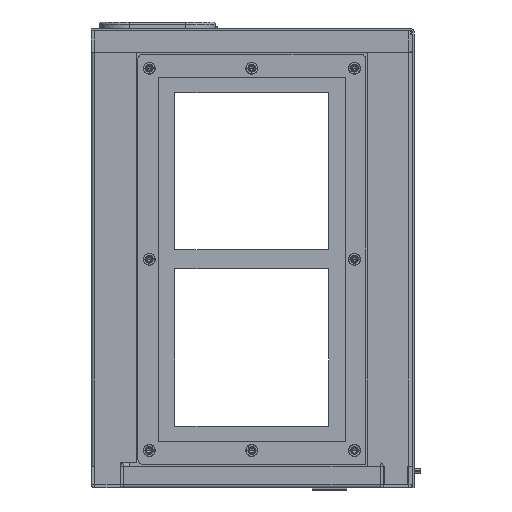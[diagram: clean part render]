
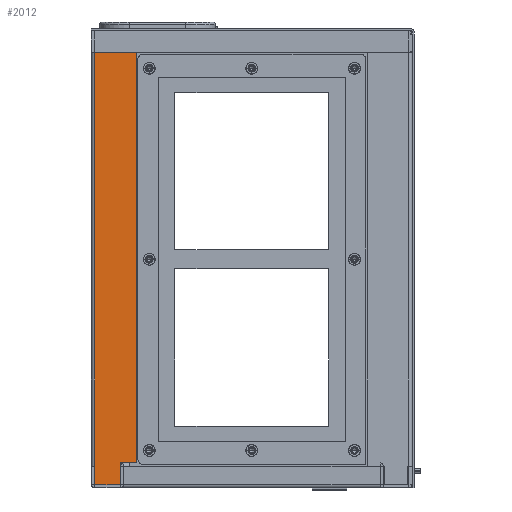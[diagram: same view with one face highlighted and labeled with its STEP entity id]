
A CAD part, left-side view. The second image highlights one B-rep face of the part: STEP entity #2012.
In plain terms, the highlighted planar face has unit normal (-1, 0, 0) as drawn and (0, -1, 0) by its records, which use the part's own axes.
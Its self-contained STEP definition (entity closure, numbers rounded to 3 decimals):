
#1306=DIRECTION('',(0.,0.,1.));
#1307=VECTOR('',#1306,14.5);
#1308=CARTESIAN_POINT('',(2.5,0.,0.));
#1309=LINE('',#1308,#1307);
#1313=DIRECTION('',(-1.,0.,0.));
#1314=VECTOR('',#1313,12.5);
#1315=CARTESIAN_POINT('',(35.,0.,17.));
#1316=LINE('',#1315,#1314);
#1320=DIRECTION('',(0.,0.,1.));
#1321=VECTOR('',#1320,17.);
#1322=CARTESIAN_POINT('',(22.5,0.,0.));
#1323=LINE('',#1322,#1321);
#1334=DIRECTION('',(1.,0.,0.));
#1335=VECTOR('',#1334,20.);
#1336=CARTESIAN_POINT('',(2.5,0.,0.));
#1337=LINE('',#1336,#1335);
#1369=DIRECTION('',(0.,0.,1.));
#1370=VECTOR('',#1369,320.);
#1371=CARTESIAN_POINT('',(35.,0.,17.));
#1372=LINE('',#1371,#1370);
#1390=DIRECTION('',(1.,0.,0.));
#1391=VECTOR('',#1390,32.5);
#1392=CARTESIAN_POINT('',(2.5,0.,337.));
#1393=LINE('',#1392,#1391);
#1441=DIRECTION('',(0.,0.,1.));
#1442=VECTOR('',#1441,322.5);
#1443=CARTESIAN_POINT('',(2.5,0.,14.5));
#1444=LINE('',#1443,#1442);
#1887=CARTESIAN_POINT('',(2.5,0.,337.));
#1888=CARTESIAN_POINT('',(35.,0.,337.));
#1889=VERTEX_POINT('',#1887);
#1890=VERTEX_POINT('',#1888);
#1897=CARTESIAN_POINT('',(35.,0.,17.));
#1898=CARTESIAN_POINT('',(22.5,0.,17.));
#1899=VERTEX_POINT('',#1897);
#1900=VERTEX_POINT('',#1898);
#1901=CARTESIAN_POINT('',(22.5,0.,0.));
#1902=VERTEX_POINT('',#1901);
#1965=CARTESIAN_POINT('',(2.5,0.,0.));
#1966=CARTESIAN_POINT('',(2.5,0.,14.5));
#1967=VERTEX_POINT('',#1965);
#1968=VERTEX_POINT('',#1966);
#1991=CARTESIAN_POINT('',(0.,0.,0.));
#1992=DIRECTION('',(0.,-1.,0.));
#1993=DIRECTION('',(1.,0.,0.));
#1994=AXIS2_PLACEMENT_3D('',#1991,#1992,#1993);
#1995=PLANE('',#1994);
#1997=ORIENTED_EDGE('',*,*,#1996,.T.);
#1999=ORIENTED_EDGE('',*,*,#1998,.T.);
#2001=ORIENTED_EDGE('',*,*,#2000,.T.);
#2003=ORIENTED_EDGE('',*,*,#2002,.F.);
#2005=ORIENTED_EDGE('',*,*,#2004,.T.);
#2007=ORIENTED_EDGE('',*,*,#2006,.F.);
#2009=ORIENTED_EDGE('',*,*,#2008,.F.);
#2010=EDGE_LOOP('',(#1997,#1999,#2001,#2003,#2005,#2007,#2009));
#2011=FACE_OUTER_BOUND('',#2010,.F.);
#2012=ADVANCED_FACE('',(#2011),#1995,.T.);
#1996=EDGE_CURVE('',#1967,#1968,#1309,.T.);
#1998=EDGE_CURVE('',#1968,#1889,#1444,.T.);
#2000=EDGE_CURVE('',#1889,#1890,#1393,.T.);
#2002=EDGE_CURVE('',#1899,#1890,#1372,.T.);
#2004=EDGE_CURVE('',#1899,#1900,#1316,.T.);
#2006=EDGE_CURVE('',#1902,#1900,#1323,.T.);
#2008=EDGE_CURVE('',#1967,#1902,#1337,.T.);
